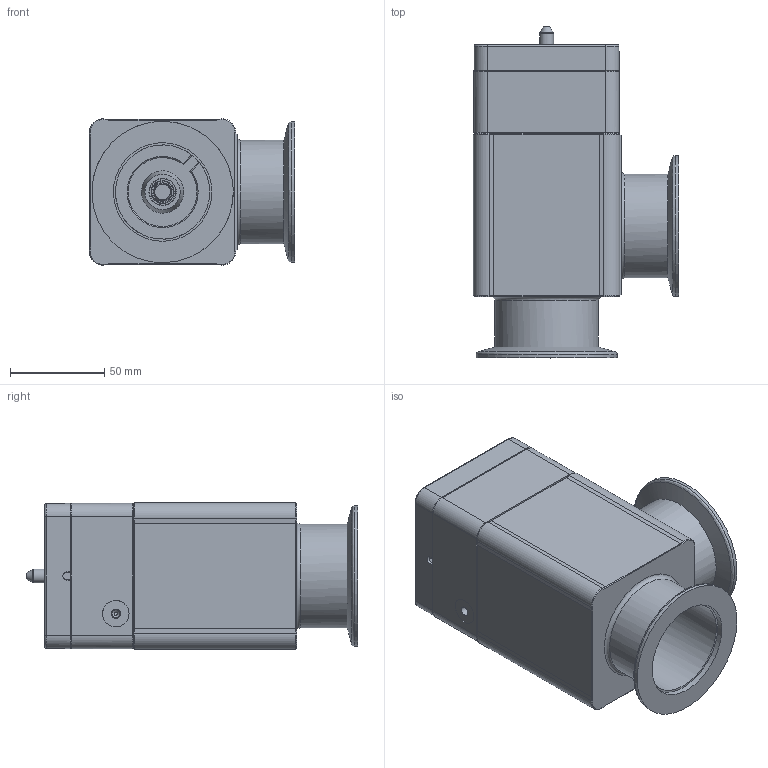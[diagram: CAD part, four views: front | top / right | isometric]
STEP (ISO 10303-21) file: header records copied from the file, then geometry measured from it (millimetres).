
FILE_DESCRIPTION((''),'2;1');
FILE_NAME('C:\TEMP\IDEAS\258363.stp','2006-09-19T16:18:50',('User'),( 'SDRC'),'I-DEAS Master Series 9','UNIX','Yes');
FILE_SCHEMA(('CONFIG_CONTROL_DESIGN'));
Length unit declared in the file: millimetre
Assembly tree (10 placements, depth 0):
Bounding box: 108.8 x 176 x 77.59 mm (x, y, z)
Volume: 303462 mm3; surface area: 155139.6 mm2
Topology: 17 solids, 18 shells, 587 faces, 1421 edges, 919 vertices
Faces by surface type: bspline 587
Entity records: 17704 total; most frequent: CARTESIAN_POINT 9255, ORIENTED_EDGE 2492, EDGE_CURVE 1246, VERTEX_POINT 791, EDGE_LOOP 586, FACE_OUTER_BOUND 512, ADVANCED_FACE 512, B_SPLINE_CURVE_WITH_KNOTS 492
